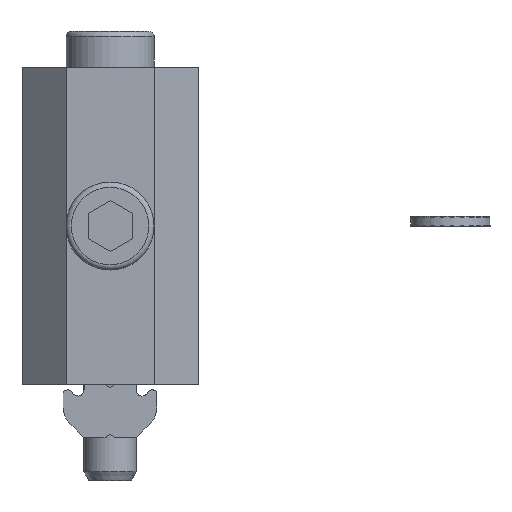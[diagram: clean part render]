
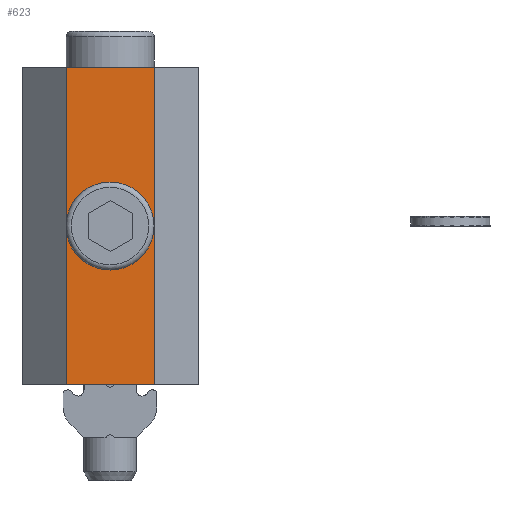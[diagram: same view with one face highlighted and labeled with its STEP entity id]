
A CAD part, left-side view. The second image highlights one B-rep face of the part: STEP entity #623.
In plain terms, the highlighted planar face has unit normal (-1, 0, 0).
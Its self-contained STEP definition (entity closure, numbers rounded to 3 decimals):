
#623 = ADVANCED_FACE( '', ( #1287 ), #1288, .F. );
#1287 = FACE_OUTER_BOUND( '', #1987, .T. );
#1288 = PLANE( '', #1988 );
#1987 = EDGE_LOOP( '', ( #3999, #4000, #4001, #4002 ) );
#1988 = AXIS2_PLACEMENT_3D( '', #4003, #4004, #4005 );
#3999 = ORIENTED_EDGE( '', *, *, #5037, .T. );
#4000 = ORIENTED_EDGE( '', *, *, #4516, .T. );
#4001 = ORIENTED_EDGE( '', *, *, #5219, .F. );
#4002 = ORIENTED_EDGE( '', *, *, #5127, .T. );
#4003 = CARTESIAN_POINT( '', ( -26., -10., 18. ) );
#4004 = DIRECTION( '', ( 1., 0., 0. ) );
#4005 = DIRECTION( '', ( 0., 0., -1. ) );
#4516 = EDGE_CURVE( '', #5552, #5556, #5558, .T. );
#5037 = EDGE_CURVE( '', #6399, #5552, #6400, .T. );
#5127 = EDGE_CURVE( '', #6497, #6399, #6498, .T. );
#5219 = EDGE_CURVE( '', #6497, #5556, #6607, .T. );
#5552 = VERTEX_POINT( '', #7225 );
#5556 = VERTEX_POINT( '', #7231 );
#5558 = LINE( '', #7234, #7235 );
#6399 = VERTEX_POINT( '', #8360 );
#6400 = LINE( '', #8361, #8362 );
#6497 = VERTEX_POINT( '', #8506 );
#6498 = LINE( '', #8507, #8508 );
#6607 = LINE( '', #8712, #8713 );
#7225 = CARTESIAN_POINT( '', ( -26., 5., 18. ) );
#7231 = CARTESIAN_POINT( '', ( -26., 5., -18. ) );
#7234 = CARTESIAN_POINT( '', ( -26., 5., -18. ) );
#7235 = VECTOR( '', #9011, 1000. );
#8360 = CARTESIAN_POINT( '', ( -26., -5., 18. ) );
#8361 = CARTESIAN_POINT( '', ( -26., -10., 18. ) );
#8362 = VECTOR( '', #9803, 1000. );
#8506 = CARTESIAN_POINT( '', ( -26., -5., -18. ) );
#8507 = CARTESIAN_POINT( '', ( -26., -5., 18. ) );
#8508 = VECTOR( '', #9857, 1000. );
#8712 = CARTESIAN_POINT( '', ( -26., -10., -18. ) );
#8713 = VECTOR( '', #9908, 1000. );
#9011 = DIRECTION( '', ( 0., 0., -1. ) );
#9803 = DIRECTION( '', ( 0., 1., 0. ) );
#9857 = DIRECTION( '', ( 0., 0., 1. ) );
#9908 = DIRECTION( '', ( 0., 1., 0. ) );
